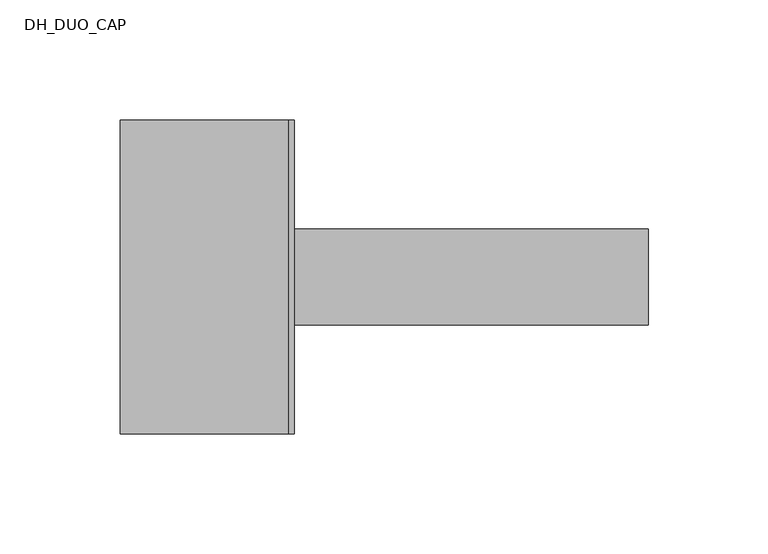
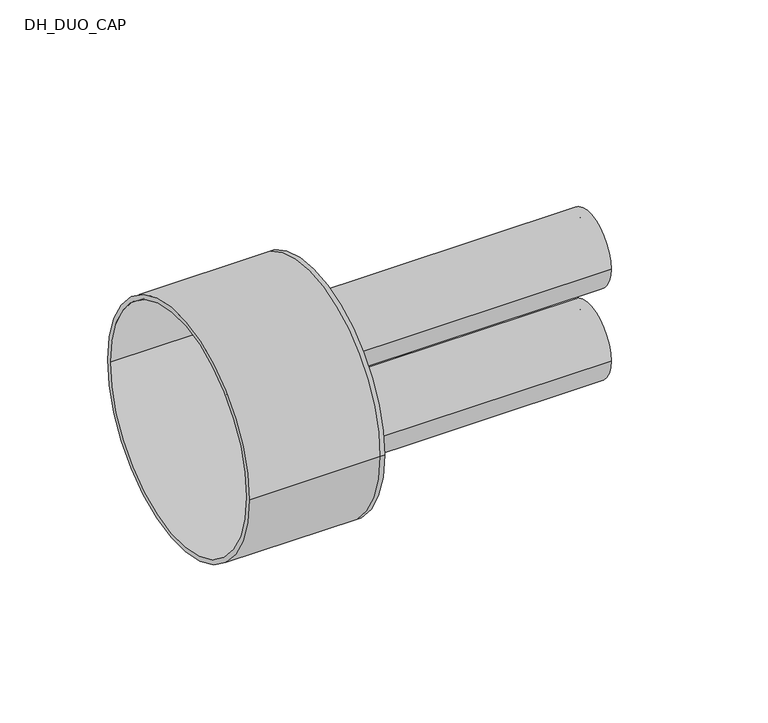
"""IFC4 building model written with IfcOpenShell, lengths in millimetres: pipe fitting geometry, DH_DUO_CAP : RAUTHERMEX DUO 7.4 Heating - Solid Cap."""

import ifcopenshell
import ifcopenshell.guid

model = None  # the IFC model being written
_history = None  # IfcOwnerHistory: only IFC2X3 demands one
_inside = {}  # id of a spatial element -> (the spatial element, [elements in it])
_under = {}  # id of a project, library or spatial element -> (it, [spatial elements below it])
_declared = {}  # id of a project -> (the project, [libraries it declares])
_typed = {}  # id of a type object -> (the type object, [elements of that type])
_made_of = {}  # id of a material, layer set ... -> (it, [elements and type objects made of it])


def new_model(schema):
    """Start an empty IFC model of exactly this schema.

    Asked for "IFC4X3", IfcOpenShell would pick the latest addendum, in which some entities
    have other attributes; the version numbers below select the first issue.
    IFC2X3 requires an IfcOwnerHistory on every rooted entity: one is made here for all.
    """
    global model, _history
    if schema == "IFC4X3":
        model = ifcopenshell.file(schema_version=(4, 3, 0, 0))
    else:
        model = ifcopenshell.file(schema=schema)
    _inside.clear()
    _under.clear()
    _declared.clear()
    _typed.clear()
    _made_of.clear()
    _history = None
    if model.schema == "IFC2X3":
        org = make("IfcOrganization", Name="unknown")
        user = make(
            "IfcPersonAndOrganization",
            ThePerson=make("IfcPerson", FamilyName="unknown"),
            TheOrganization=org,
        )
        app = make(
            "IfcApplication",
            ApplicationDeveloper=org,
            Version="unknown",
            ApplicationFullName="unknown",
            ApplicationIdentifier="unknown",
        )
        _history = make(
            "IfcOwnerHistory",
            OwningUser=user,
            OwningApplication=app,
            ChangeAction="ADDED",
            CreationDate=0,
        )
    return model


def make(cls, **values):
    """One entity of the class cls with the attributes given. An attribute that is None is left unset."""
    return model.create_entity(
        cls, **{name: value for name, value in values.items() if value is not None}
    )


def rooted(cls, **values):
    """An entity with a GlobalId (a new one), such as an element, a storey or a relation."""
    return make(cls, GlobalId=ifcopenshell.guid.new(), OwnerHistory=_history, **values)


def si_unit(unit_type, name, prefix=None):
    """IfcSIUnit, for example si_unit("LENGTHUNIT", "METRE", prefix="MILLI")."""
    return make("IfcSIUnit", UnitType=unit_type, Prefix=prefix, Name=name)


def assignment(units):
    """IfcUnitAssignment: the units of a project."""
    return None if units is None else make("IfcUnitAssignment", Units=units)


def point(xyz):
    """IfcCartesianPoint."""
    return None if xyz is None else make("IfcCartesianPoint", Coordinates=xyz)


def direction(xyz):
    """IfcDirection."""
    return None if xyz is None else make("IfcDirection", DirectionRatios=xyz)


def frame(location, z_axis=None, x_axis=None):
    """IfcAxis2Placement3D, a coordinate frame: its origin and axes. An axis left out is left unset."""
    return make(
        "IfcAxis2Placement3D",
        Location=point(location),
        Axis=direction(z_axis),
        RefDirection=direction(x_axis),
    )


def frame_2d(location, x_axis=None):
    """IfcAxis2Placement2D, a coordinate frame in the plane: its origin and x axis."""
    return make(
        "IfcAxis2Placement2D", Location=point(location), RefDirection=direction(x_axis)
    )


def origin():
    """The frame at (0, 0, 0) with its axes left unset."""
    return frame((0.0, 0.0, 0.0))


def place(relative_to, where):
    """IfcLocalPlacement: puts the frame where relative to a parent placement (None: the world)."""
    return make(
        "IfcLocalPlacement", PlacementRelTo=relative_to, RelativePlacement=where
    )


def context(
    kind, dimensions, precision=None, world=None, true_north=None, identifier=None
):
    """IfcGeometricRepresentationContext, for example the 3D "Model" context."""
    return make(
        "IfcGeometricRepresentationContext",
        ContextIdentifier=identifier,
        ContextType=kind,
        CoordinateSpaceDimension=dimensions,
        Precision=precision,
        WorldCoordinateSystem=world,
        TrueNorth=true_north,
    )


def project(units=None, contexts=None):
    """IfcProject with its units and contexts."""
    return rooted(
        "IfcProject",
        Name="project",
        RepresentationContexts=contexts,
        UnitsInContext=assignment(units),
    )


def spatial(cls, under=None, at=None, **own):
    """A site, building, storey or space (cls), placed at a placement, below another one or the project."""
    s = rooted(cls, ObjectPlacement=at, **own)
    if under is not None:
        _under.setdefault(under.id(), (under, []))[1].append(s)
    return s


def polyline(points):
    """IfcPolyline through the points."""
    return make("IfcPolyline", Points=[point(p) for p in points])


def circle_curve(where, radius):
    """IfcCircle in the frame where."""
    return make("IfcCircle", Position=where, Radius=radius)


def trimmed(basis, trim1, trim2, sense, master):
    """IfcTrimmedCurve: the piece of a basis curve between two trims."""
    return make(
        "IfcTrimmedCurve",
        BasisCurve=basis,
        Trim1=trim1,
        Trim2=trim2,
        SenseAgreement=sense,
        MasterRepresentation=master,
    )


def segment(curve, same_sense, transition):
    """IfcCompositeCurveSegment."""
    return make(
        "IfcCompositeCurveSegment",
        Transition=transition,
        SameSense=same_sense,
        ParentCurve=curve,
    )


def composite_curve(segments, self_intersect=None):
    """IfcCompositeCurve: segments joined end to end."""
    return make("IfcCompositeCurve", Segments=segments, SelfIntersect=self_intersect)


def outline(outer, holes=None, kind="AREA"):
    """IfcArbitraryClosedProfileDef: a profile drawn as a closed curve; with holes, ...WithVoids."""
    if holes is None:
        return make("IfcArbitraryClosedProfileDef", ProfileType=kind, OuterCurve=outer)
    return make(
        "IfcArbitraryProfileDefWithVoids",
        ProfileType=kind,
        OuterCurve=outer,
        InnerCurves=holes,
    )


def extrude(swept, where, along, depth):
    """IfcExtrudedAreaSolid: the profile swept, set in the frame where, extruded along a direction by depth."""
    return make(
        "IfcExtrudedAreaSolid",
        SweptArea=swept,
        Position=where,
        ExtrudedDirection=direction(along),
        Depth=depth,
    )


def shape(context_of_items, identifier, shape_type, items):
    """IfcShapeRepresentation: the items that make up one representation, for example the "Body"."""
    return make(
        "IfcShapeRepresentation",
        ContextOfItems=context_of_items,
        RepresentationIdentifier=identifier,
        RepresentationType=shape_type,
        Items=items,
    )


def source(mapping_origin, context_of_items, identifier, shape_type, items):
    """IfcRepresentationMap: a shape defined once, which mapped items show again and again."""
    return make(
        "IfcRepresentationMap",
        MappingOrigin=mapping_origin,
        MappedRepresentation=shape(context_of_items, identifier, shape_type, items),
    )


def transform(
    local_origin,
    x_axis=None,
    y_axis=None,
    z_axis=None,
    scale=None,
    scale2=None,
    scale3=None,
    uniform=True,
):
    """IfcCartesianTransformationOperator3D, or its non-uniform kind. x_axis, y_axis, z_axis: its Axis1, 2, 3."""
    if uniform:
        return make(
            "IfcCartesianTransformationOperator3D",
            Axis1=direction(x_axis),
            Axis2=direction(y_axis),
            LocalOrigin=point(local_origin),
            Scale=scale,
            Axis3=direction(z_axis),
        )
    return make(
        "IfcCartesianTransformationOperator3DnonUniform",
        Axis1=direction(x_axis),
        Axis2=direction(y_axis),
        LocalOrigin=point(local_origin),
        Scale=scale,
        Axis3=direction(z_axis),
        Scale2=scale2,
        Scale3=scale3,
    )


def mapped(mapping_source, mapping_target):
    """IfcMappedItem: shows the shape of a source again, moved by a transform."""
    return make(
        "IfcMappedItem", MappingSource=mapping_source, MappingTarget=mapping_target
    )


def made_of(thing, what):
    """Note that an element or type object is made of a material, layer set ...; save() writes the relation."""
    if what is not None:
        _made_of.setdefault(what.id(), (what, []))[1].append(thing)
    return thing


def element(
    cls,
    number,
    at=None,
    inside=None,
    cuts=None,
    type_object=None,
    material=None,
    context=None,
    identifier="Body",
    shape_type=None,
    held_by="IfcProductDefinitionShape",
    body=None,
    shapes=None,
    **own,
):
    """One element of the class cls, such as IfcWall. Its Tag is "e" and its number.

    at: its placement. inside: the storey or other place that contains it. cuts: it is an
    opening in that element (IfcRelVoidsElement). A single representation is given by context,
    identifier, shape_type and body (its items); several are given by shapes. held_by: the class
    of the entity that holds the representations. save() writes the other relations.
    """
    e = rooted(cls, Tag="e%d" % number, ObjectPlacement=at, **own)
    if body is not None:
        shapes = [shape(context, identifier, shape_type, body)]
    if shapes is not None:
        e.Representation = make(held_by, Representations=shapes)
    if inside is not None:
        _inside.setdefault(inside.id(), (inside, []))[1].append(e)
    if cuts is not None:
        rooted(
            "IfcRelVoidsElement", RelatingBuildingElement=cuts, RelatedOpeningElement=e
        )
    if type_object is not None:
        _typed.setdefault(type_object.id(), (type_object, []))[1].append(e)
    return made_of(e, material)


def aggregate(whole, parts):
    """IfcRelAggregates: a whole, such as a stair, and the parts it consists of."""
    return rooted("IfcRelAggregates", RelatingObject=whole, RelatedObjects=parts)


def save(model, path):
    """Write the relations noted so far, then the file.

    IfcRelAggregates (storeys below a building ...), IfcRelContainedInSpatialStructure (elements
    in a storey), IfcRelDefinesByType, IfcRelAssociatesMaterial and IfcRelDeclares: one each for
    every whole, place, type object, material and project.
    """
    for whole, parts in _under.values():
        aggregate(whole, parts)
    for where, things in _inside.values():
        rooted(
            "IfcRelContainedInSpatialStructure",
            RelatedElements=things,
            RelatingStructure=where,
        )
    for kind, things in _typed.values():
        rooted("IfcRelDefinesByType", RelatedObjects=things, RelatingType=kind)
    for what, things in _made_of.values():
        rooted("IfcRelAssociatesMaterial", RelatedObjects=things, RelatingMaterial=what)
    for by, libraries in _declared.values():
        rooted("IfcRelDeclares", RelatingContext=by, RelatedDefinitions=libraries)
    model.write(path)


def plane_surface(at):
    """IfcPlane: the flat surface through the origin of the frame at, square to its z axis."""
    return make("IfcPlane", Position=at)


def cylinder_surface(at, radius):
    """IfcCylindricalSurface: all points at the distance radius from the z axis of the frame at."""
    return make("IfcCylindricalSurface", Position=at, Radius=radius)


def revolved_surface(curve, axis_point, axis_direction):
    """IfcSurfaceOfRevolution: the curve turned about the line through axis_point along axis_direction."""
    return make(
        "IfcSurfaceOfRevolution",
        SweptCurve=make("IfcArbitraryOpenProfileDef", ProfileType="CURVE", Curve=curve),
        AxisPosition=make("IfcAxis1Placement", Location=point(axis_point), Axis=direction(axis_direction)),
    )


def advanced_brep(points, edges, surfaces, faces):
    """IfcAdvancedBrep: a solid bounded by faces that lie on surfaces and meet in shared edges.

    An edge is (start, end): straight between two places in points (the first is 0);
    or (start, end, curve); or (start, end, curve, False) where it runs against its curve.
    A face is (place in surfaces, loops), or (place, loops, False) where it looks against
    its surface's normal. A loop lists edges by number (the first is 1), with a minus sign
    where the edge is run from its end to its start. The first loop is the outer one.
    """
    corners = [point(p) for p in points]
    vertices = [make("IfcVertexPoint", VertexGeometry=c) for c in corners]
    made = []
    for start, end, *more in edges:
        made.append(
            make(
                "IfcEdgeCurve",
                EdgeStart=vertices[start],
                EdgeEnd=vertices[end],
                EdgeGeometry=more[0] if more else make("IfcPolyline", Points=[corners[start], corners[end]]),
                SameSense=more[1] if len(more) > 1 else True,
            )
        )
    hull = []
    for where, loops, *sense in faces:
        bounds = []
        for j, loop in enumerate(loops):
            ring = [make("IfcOrientedEdge", EdgeElement=made[abs(k) - 1], Orientation=k > 0) for k in loop]
            bounds.append(
                make(
                    "IfcFaceOuterBound" if j == 0 else "IfcFaceBound",
                    Bound=make("IfcEdgeLoop", EdgeList=ring),
                    Orientation=True,
                )
            )
        hull.append(make("IfcAdvancedFace", Bounds=bounds, FaceSurface=surfaces[where], SameSense=sense[0] if sense else True))
    return make("IfcAdvancedBrep", Outer=make("IfcClosedShell", CfsFaces=hull))


def dh_duo_cap_bc41557e(model_context):
    return source(origin(), model_context, "Body", "SolidModel", [
        extrude(outline(composite_curve([segment(trimmed(circle_curve(frame_2d((0.0, -26.0)), 20.0), [point((-20.0, -26.0))], [point((20.0, -26.0))], False, "CARTESIAN"), True, "CONTINUOUS"), segment(trimmed(circle_curve(frame_2d((0.0, -26.0)), 20.0), [point((20.0, -26.0))], [point((-20.0, -26.0))], False, "CARTESIAN"), True, "CONTINUOUS")], self_intersect=False), holes=[composite_curve([segment(trimmed(circle_curve(frame_2d((0.0, -26.0)), 14.5), [point((-14.5, -26.0))], [point((14.5, -26.0))], True, "CARTESIAN"), True, "CONTINUOUS"), segment(trimmed(circle_curve(frame_2d((0.0, -26.0)), 14.5), [point((14.5, -26.0))], [point((-14.5, -26.0))], True, "CARTESIAN"), True, "CONTINUOUS")], self_intersect=False)]), frame((0.0, 0.0, 0.0), z_axis=(1.0, 0.0, 0.0), x_axis=(0.0, 1.0, 0.0)), (0.0, 0.0, 1.0), 150.0),
        extrude(outline(composite_curve([segment(trimmed(circle_curve(frame_2d((0.0, 26.0)), 20.0), [point((-20.0, 26.0))], [point((20.0, 26.0))], False, "CARTESIAN"), True, "CONTINUOUS"), segment(trimmed(circle_curve(frame_2d((0.0, 26.0)), 20.0), [point((20.0, 26.0))], [point((-20.0, 26.0))], False, "CARTESIAN"), True, "CONTINUOUS")], self_intersect=False), holes=[composite_curve([segment(trimmed(circle_curve(frame_2d((0.0, 26.0)), 14.5), [point((-14.5, 26.0))], [point((14.5, 26.0))], True, "CARTESIAN"), True, "CONTINUOUS"), segment(trimmed(circle_curve(frame_2d((0.0, 26.0)), 14.5), [point((14.5, 26.0))], [point((-14.5, 26.0))], True, "CARTESIAN"), True, "CONTINUOUS")], self_intersect=False)]), frame((0.0, 0.0, 0.0), z_axis=(1.0, 0.0, 0.0), x_axis=(0.0, 1.0, 0.0)), (0.0, 0.0, 1.0), 150.0),
        advanced_brep(
        [(-70.0, -65.5, 0.0), (-70.0, 65.5, 0.0), (-70.0, -63.0, 0.0), (-70.0, 63.0, 0.0), (0.0, -63.0, 0.0), (0.0, 63.0, 0.0), (0.0, -65.5, 0.0), (0.0, 65.5, 0.0), (0.0, 20.0, 26.0), (0.0, -20.0, 26.0), (0.0, 20.0, -26.0), (0.0, -20.0, -26.0), (2.5, -65.5, 0.0), (2.5, 65.5, 0.0), (2.5, -20.0, 26.0), (2.5, 20.0, 26.0), (2.5, -20.0, -26.0), (2.5, 20.0, -26.0)],
        [
            (0, 1, circle_curve(frame((-70.0, 0.0, 0.0), z_axis=(-1.0, 0.0, 0.0), x_axis=(0.0, 1.0, 0.0)), 65.5)),
            (1, 0, circle_curve(frame((-70.0, 0.0, 0.0), z_axis=(-1.0, 0.0, 0.0), x_axis=(0.0, 1.0, 0.0)), 65.5)),
            (2, 3, circle_curve(frame((-70.0, 0.0, 0.0), z_axis=(1.0, 0.0, 0.0), x_axis=(0.0, 1.0, 0.0)), 63.0)),
            (3, 2, circle_curve(frame((-70.0, 0.0, 0.0), z_axis=(1.0, 0.0, 0.0), x_axis=(0.0, 1.0, 0.0)), 63.0)),
            (2, 4),
            (4, 5, circle_curve(frame((0.0, 0.0, 0.0), z_axis=(1.0, 0.0, 0.0), x_axis=(0.0, 1.0, 0.0)), 63.0)),
            (5, 3),
            (5, 4, circle_curve(frame((0.0, 0.0, 0.0), z_axis=(1.0, 0.0, 0.0), x_axis=(0.0, 1.0, 0.0)), 63.0)),
            (0, 6),
            (6, 7, circle_curve(frame((0.0, 0.0, 0.0), z_axis=(-1.0, 0.0, 0.0), x_axis=(0.0, 1.0, 0.0)), 65.5)),
            (7, 1),
            (7, 6, circle_curve(frame((0.0, 0.0, 0.0), z_axis=(-1.0, 0.0, 0.0), x_axis=(0.0, 1.0, 0.0)), 65.5)),
            (8, 9, circle_curve(frame((0.0, 0.0, 26.0), z_axis=(1.0, 0.0, 0.0), x_axis=(0.0, 1.0, 0.0)), 20.0)),
            (9, 8, circle_curve(frame((0.0, 0.0, 26.0), z_axis=(1.0, 0.0, 0.0), x_axis=(0.0, 1.0, 0.0)), 20.0)),
            (10, 11, circle_curve(frame((0.0, 0.0, -26.0), z_axis=(1.0, 0.0, 0.0), x_axis=(0.0, 1.0, 0.0)), 20.0)),
            (11, 10, circle_curve(frame((0.0, 0.0, -26.0), z_axis=(1.0, 0.0, 0.0), x_axis=(0.0, 1.0, 0.0)), 20.0)),
            (12, 13, circle_curve(frame((2.5, 0.0, 0.0), z_axis=(1.0, 0.0, 0.0), x_axis=(0.0, 1.0, 0.0)), 65.5)),
            (13, 12, circle_curve(frame((2.5, 0.0, 0.0), z_axis=(1.0, 0.0, 0.0), x_axis=(0.0, 1.0, 0.0)), 65.5)),
            (14, 15, circle_curve(frame((2.5, 0.0, 26.0), z_axis=(-1.0, 0.0, 0.0), x_axis=(0.0, 1.0, 0.0)), 20.0)),
            (15, 14, circle_curve(frame((2.5, 0.0, 26.0), z_axis=(-1.0, 0.0, 0.0), x_axis=(0.0, 1.0, 0.0)), 20.0)),
            (16, 17, circle_curve(frame((2.5, 0.0, -26.0), z_axis=(-1.0, 0.0, 0.0), x_axis=(0.0, 1.0, 0.0)), 20.0)),
            (17, 16, circle_curve(frame((2.5, 0.0, -26.0), z_axis=(-1.0, 0.0, 0.0), x_axis=(0.0, 1.0, 0.0)), 20.0)),
            (13, 7),
            (6, 12),
            (8, 15),
            (14, 9),
            (10, 17),
            (16, 11),
        ],
        [
            plane_surface(frame((-70.0, 0.0, 0.0), z_axis=(-1.0, 0.0, 0.0), x_axis=(0.0, 0.0, 1.0))),
            revolved_surface(polyline([(0.0, 63.0, 0.0), (-70.0, 63.0, 0.0)]), (-70.0, 0.0, 0.0), (1.0, 0.0, 0.0)),
            cylinder_surface(frame((-70.0, 0.0, 0.0), z_axis=(-1.0, 0.0, 0.0), x_axis=(0.0, 1.0, 0.0)), 65.5),
            plane_surface(frame((0.0, 0.0, 0.0), z_axis=(-1.0, 0.0, 0.0), x_axis=(0.0, 0.0, 1.0))),
            plane_surface(frame((2.5, 0.0, 0.0), z_axis=(1.0, 0.0, 0.0), x_axis=(0.0, 0.0, 1.0))),
            cylinder_surface(frame((0.0, 0.0, 0.0), z_axis=(-1.0, 0.0, 0.0), x_axis=(0.0, 1.0, 0.0)), 65.5),
            revolved_surface(polyline([(0.0, 20.0, 26.0), (2.5, 20.0, 26.0)]), (0.0, 0.0, 26.0), (-1.0, 0.0, 0.0)),
            revolved_surface(polyline([(0.0, 20.0, -26.0), (2.5, 20.0, -26.0)]), (0.0, 0.0, -26.0), (-1.0, 0.0, 0.0)),
        ],
        [
            (0, [[1, 2], [3, 4]]),
            (1, [[-3, 5, 6, 7]]),
            (1, [[-4, -7, 8, -5]]),
            (2, [[-1, 9, 10, 11]]),
            (2, [[-2, -11, 12, -9]]),
            (3, [[-6, -8], [13, 14], [15, 16]]),
            (4, [[17, 18], [19, 20], [21, 22]]),
            (5, [[-18, 23, -10, 24]]),
            (5, [[-17, -24, -12, -23]]),
            (6, [[25, -19, 26, -13]]),
            (6, [[-25, -14, -26, -20]]),
            (7, [[27, -21, 28, -15]]),
            (7, [[-27, -16, -28, -22]]),
        ],
    ),
    ])


if __name__ == "__main__":
    model = new_model("IFC4")
    model_context = context("Model", 3, world=origin())
    ifc_project = project(units=[si_unit("LENGTHUNIT", "METRE", prefix="MILLI")], contexts=[model_context])
    site = spatial("IfcSite", under=ifc_project)
    building = spatial("IfcBuilding", under=site)
    placement = place(None, origin())
    dh_duo_cap_shape = dh_duo_cap_bc41557e(model_context)
    element("IfcPipeFitting", 1, ObjectType="DH_DUO_CAP : RAUTHERMEX DUO 7.4 Heating - Solid Cap", at=placement, inside=building, context=model_context, shape_type="MappedRepresentation", body=[
        mapped(dh_duo_cap_shape, transform((0.0, 0.0, 0.0), x_axis=(1.0, 0.0, 0.0), y_axis=(0.0, 1.0, 0.0), z_axis=(0.0, 0.0, 1.0))),
    ])
    save(model, "model.ifc")
